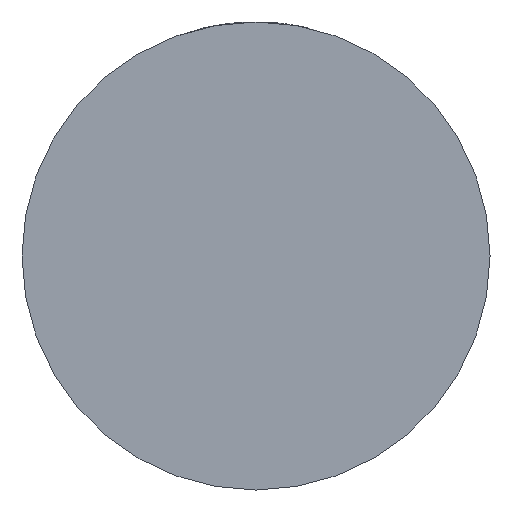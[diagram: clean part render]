
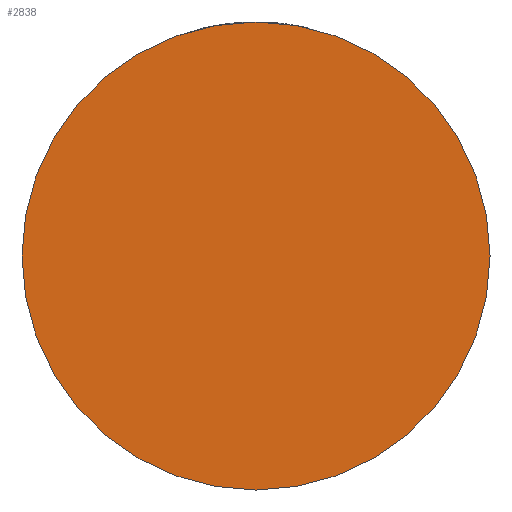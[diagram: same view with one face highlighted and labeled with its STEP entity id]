
A CAD part, front view. The second image highlights one B-rep face of the part: STEP entity #2838.
In plain terms, the highlighted planar face has unit normal (0, -1, 0).
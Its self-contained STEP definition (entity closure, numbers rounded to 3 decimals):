
#124 = AXIS2_PLACEMENT_3D ( 'NONE', #336, #672, #2142 ) ;
#250 = VERTEX_POINT ( 'NONE', #1291 ) ;
#336 = CARTESIAN_POINT ( 'NONE',  ( 0., -28., 0. ) ) ;
#672 = DIRECTION ( 'NONE',  ( 0., -1., 0. ) ) ;
#1291 = CARTESIAN_POINT ( 'NONE',  ( -40., -28., 0. ) ) ;
#1609 = DIRECTION ( 'NONE',  ( 1., 0., 0. ) ) ;
#1656 = VERTEX_POINT ( 'NONE', #1800 ) ;
#1800 = CARTESIAN_POINT ( 'NONE',  ( 40., -28., 0. ) ) ;
#2038 = EDGE_CURVE ( 'NONE', #250, #1656, #2980, .T. ) ;
#2105 = ORIENTED_EDGE ( 'NONE', *, *, #2038, .T. ) ;
#2142 = DIRECTION ( 'NONE',  ( 1., 0., 0. ) ) ;
#2359 = EDGE_LOOP ( 'NONE', ( #2105, #4368 ) ) ;
#2838 = ADVANCED_FACE ( 'NONE', ( #3544 ), #4017, .T. ) ;
#2912 = EDGE_CURVE ( 'NONE', #1656, #250, #3963, .T. ) ;
#2980 = CIRCLE ( 'NONE', #3468, 40. ) ;
#3053 = AXIS2_PLACEMENT_3D ( 'NONE', #3662, #3284, #1609 ) ;
#3284 = DIRECTION ( 'NONE',  ( 0., -1., 0. ) ) ;
#3468 = AXIS2_PLACEMENT_3D ( 'NONE', #3924, #3881, #3553 ) ;
#3544 = FACE_OUTER_BOUND ( 'NONE', #2359, .T. ) ;
#3553 = DIRECTION ( 'NONE',  ( 1., 0., 0. ) ) ;
#3662 = CARTESIAN_POINT ( 'NONE',  ( 0., -28., 0. ) ) ;
#3881 = DIRECTION ( 'NONE',  ( 0., -1., 0. ) ) ;
#3924 = CARTESIAN_POINT ( 'NONE',  ( 0., -28., 0. ) ) ;
#3963 = CIRCLE ( 'NONE', #124, 40. ) ;
#4017 = PLANE ( 'NONE',  #3053 ) ;
#4368 = ORIENTED_EDGE ( 'NONE', *, *, #2912, .T. ) ;
